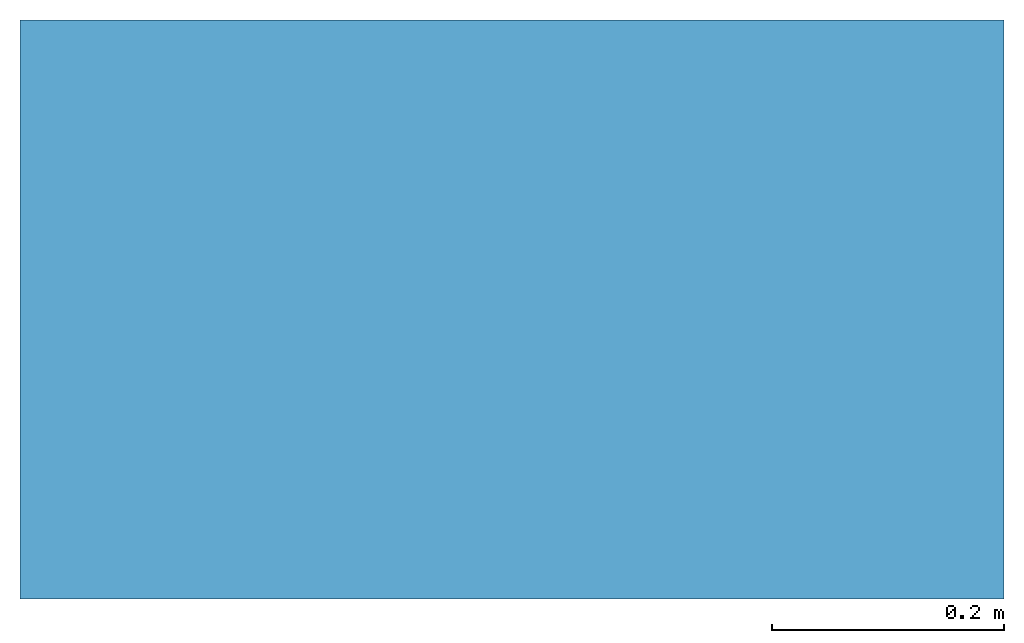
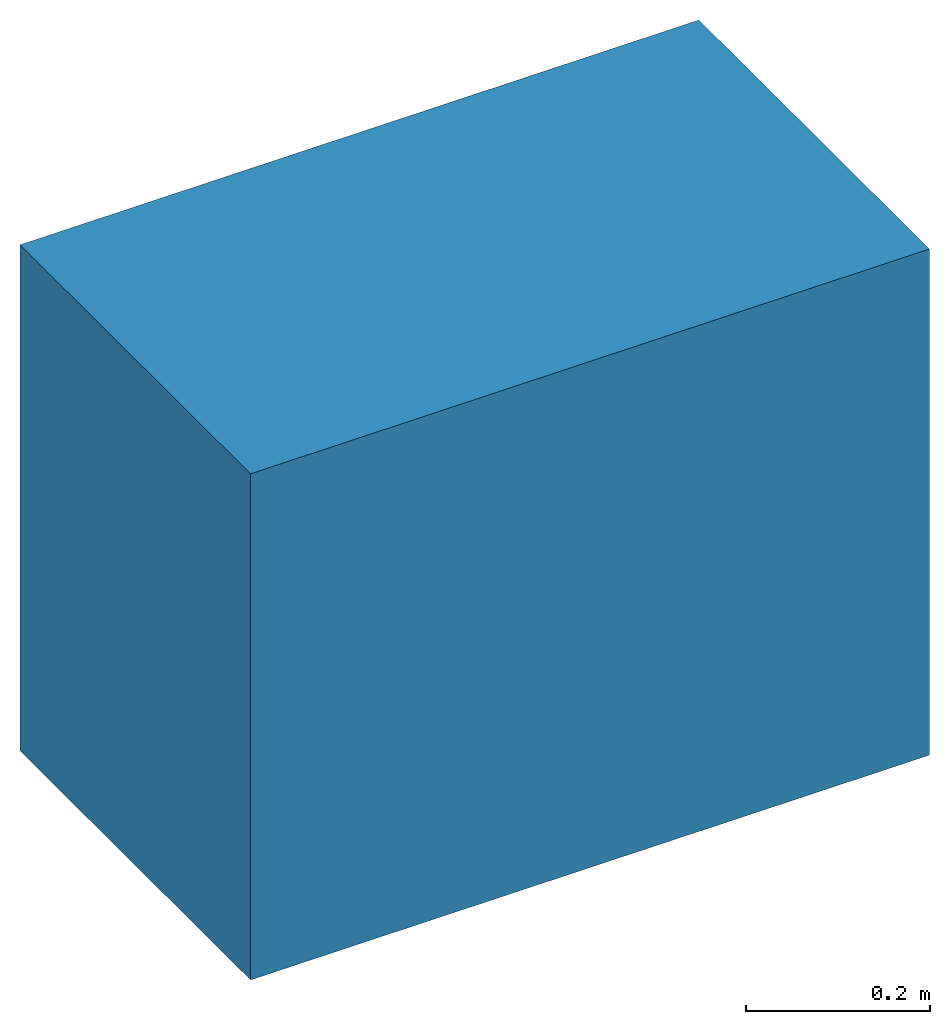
# One storey: 1 slab.
"""IFC4 building model written with IfcOpenShell, lengths in metres."""

import ifcopenshell
import ifcopenshell.guid

model = None  # the IFC model being written
_history = None  # IfcOwnerHistory: only IFC2X3 demands one
_inside = {}  # id of a spatial element -> (the spatial element, [elements in it])
_under = {}  # id of a project, library or spatial element -> (it, [spatial elements below it])
_declared = {}  # id of a project -> (the project, [libraries it declares])
_typed = {}  # id of a type object -> (the type object, [elements of that type])
_made_of = {}  # id of a material, layer set ... -> (it, [elements and type objects made of it])


def new_model(schema):
    """Start an empty IFC model of exactly this schema.

    Asked for "IFC4X3", IfcOpenShell would pick the latest addendum, in which some entities
    have other attributes; the version numbers below select the first issue.
    IFC2X3 requires an IfcOwnerHistory on every rooted entity: one is made here for all.
    """
    global model, _history
    if schema == "IFC4X3":
        model = ifcopenshell.file(schema_version=(4, 3, 0, 0))
    else:
        model = ifcopenshell.file(schema=schema)
    _inside.clear()
    _under.clear()
    _declared.clear()
    _typed.clear()
    _made_of.clear()
    _history = None
    if model.schema == "IFC2X3":
        org = make("IfcOrganization", Name="unknown")
        user = make(
            "IfcPersonAndOrganization",
            ThePerson=make("IfcPerson", FamilyName="unknown"),
            TheOrganization=org,
        )
        app = make(
            "IfcApplication",
            ApplicationDeveloper=org,
            Version="unknown",
            ApplicationFullName="unknown",
            ApplicationIdentifier="unknown",
        )
        _history = make(
            "IfcOwnerHistory",
            OwningUser=user,
            OwningApplication=app,
            ChangeAction="ADDED",
            CreationDate=0,
        )
    return model


def make(cls, **values):
    """One entity of the class cls with the attributes given. An attribute that is None is left unset."""
    return model.create_entity(
        cls, **{name: value for name, value in values.items() if value is not None}
    )


def entity(cls, *values):
    """Any entity or typed value of the class cls, its attributes in the order of the schema. None: left unset."""
    e = model.create_entity(cls)
    for i, value in enumerate(values):
        if value is not None:
            e[i] = value
    return e


def rooted(cls, **values):
    """An entity with a GlobalId (a new one), such as an element, a storey or a relation."""
    return make(cls, GlobalId=ifcopenshell.guid.new(), OwnerHistory=_history, **values)


def si_unit(unit_type, name, prefix=None):
    """IfcSIUnit, for example si_unit("LENGTHUNIT", "METRE", prefix="MILLI")."""
    return make("IfcSIUnit", UnitType=unit_type, Prefix=prefix, Name=name)


def converted_unit(unit_type, name, factor, base, dimensions=None, offset=None):
    """IfcConversionBasedUnit, such as the inch: factor (a typed value) times the base unit."""
    return make(
        "IfcConversionBasedUnit"
        if offset is None
        else "IfcConversionBasedUnitWithOffset",
        ConversionOffset=offset,
        Dimensions=None
        if dimensions is None
        else entity("IfcDimensionalExponents", *dimensions),
        UnitType=unit_type,
        Name=name,
        ConversionFactor=make(
            "IfcMeasureWithUnit", ValueComponent=factor, UnitComponent=base
        ),
    )


def assignment(units):
    """IfcUnitAssignment: the units of a project."""
    return None if units is None else make("IfcUnitAssignment", Units=units)


def point(xyz):
    """IfcCartesianPoint."""
    return None if xyz is None else make("IfcCartesianPoint", Coordinates=xyz)


def direction(xyz):
    """IfcDirection."""
    return None if xyz is None else make("IfcDirection", DirectionRatios=xyz)


def frame(location, z_axis=None, x_axis=None):
    """IfcAxis2Placement3D, a coordinate frame: its origin and axes. An axis left out is left unset."""
    return make(
        "IfcAxis2Placement3D",
        Location=point(location),
        Axis=direction(z_axis),
        RefDirection=direction(x_axis),
    )


def frame_2d(location, x_axis=None):
    """IfcAxis2Placement2D, a coordinate frame in the plane: its origin and x axis."""
    return make(
        "IfcAxis2Placement2D", Location=point(location), RefDirection=direction(x_axis)
    )


def origin():
    """The frame at (0, 0, 0) with its axes left unset."""
    return frame((0.0, 0.0, 0.0))


def place(relative_to, where):
    """IfcLocalPlacement: puts the frame where relative to a parent placement (None: the world)."""
    return make(
        "IfcLocalPlacement", PlacementRelTo=relative_to, RelativePlacement=where
    )


def context(
    kind, dimensions, precision=None, world=None, true_north=None, identifier=None
):
    """IfcGeometricRepresentationContext, for example the 3D "Model" context."""
    return make(
        "IfcGeometricRepresentationContext",
        ContextIdentifier=identifier,
        ContextType=kind,
        CoordinateSpaceDimension=dimensions,
        Precision=precision,
        WorldCoordinateSystem=world,
        TrueNorth=true_north,
    )


def subcontext(parent, identifier, kind, view, scale=None):
    """IfcGeometricRepresentationSubContext, for example "Body" below "Model"."""
    return make(
        "IfcGeometricRepresentationSubContext",
        ContextIdentifier=identifier,
        ContextType=kind,
        ParentContext=parent,
        TargetScale=scale,
        TargetView=view,
    )


def project(units=None, contexts=None):
    """IfcProject with its units and contexts."""
    return rooted(
        "IfcProject",
        Name="project",
        RepresentationContexts=contexts,
        UnitsInContext=assignment(units),
    )


def spatial(cls, under=None, at=None, **own):
    """A site, building, storey or space (cls), placed at a placement, below another one or the project."""
    s = rooted(cls, ObjectPlacement=at, **own)
    if under is not None:
        _under.setdefault(under.id(), (under, []))[1].append(s)
    return s


def profile(cls, at=None, kind="AREA", **sizes):
    """A parametric profile (cls). Its sizes go by their IFC names, for example OverallWidth=200.0."""
    return make(cls, ProfileType=kind, Position=at, **sizes)


def rectangle(**sizes):
    """IfcRectangleProfileDef."""
    return profile("IfcRectangleProfileDef", **sizes)


def extrude(swept, where, along, depth):
    """IfcExtrudedAreaSolid: the profile swept, set in the frame where, extruded along a direction by depth."""
    return make(
        "IfcExtrudedAreaSolid",
        SweptArea=swept,
        Position=where,
        ExtrudedDirection=direction(along),
        Depth=depth,
    )


def shape(context_of_items, identifier, shape_type, items):
    """IfcShapeRepresentation: the items that make up one representation, for example the "Body"."""
    return make(
        "IfcShapeRepresentation",
        ContextOfItems=context_of_items,
        RepresentationIdentifier=identifier,
        RepresentationType=shape_type,
        Items=items,
    )


def material(Name=None, Category=None):
    """IfcMaterial."""
    return make("IfcMaterial", Name=Name, Category=Category)


def made_of(thing, what):
    """Note that an element or type object is made of a material, layer set ...; save() writes the relation."""
    if what is not None:
        _made_of.setdefault(what.id(), (what, []))[1].append(thing)
    return thing


def type_object(cls, material=None, **own):
    """A type object (cls), such as IfcWallType, which elements share."""
    return made_of(rooted(cls, **own), material)


def element(
    cls,
    number,
    at=None,
    inside=None,
    cuts=None,
    type_object=None,
    material=None,
    context=None,
    identifier="Body",
    shape_type=None,
    held_by="IfcProductDefinitionShape",
    body=None,
    shapes=None,
    **own,
):
    """One element of the class cls, such as IfcWall. Its Tag is "e" and its number.

    at: its placement. inside: the storey or other place that contains it. cuts: it is an
    opening in that element (IfcRelVoidsElement). A single representation is given by context,
    identifier, shape_type and body (its items); several are given by shapes. held_by: the class
    of the entity that holds the representations. save() writes the other relations.
    """
    e = rooted(cls, Tag="e%d" % number, ObjectPlacement=at, **own)
    if body is not None:
        shapes = [shape(context, identifier, shape_type, body)]
    if shapes is not None:
        e.Representation = make(held_by, Representations=shapes)
    if inside is not None:
        _inside.setdefault(inside.id(), (inside, []))[1].append(e)
    if cuts is not None:
        rooted(
            "IfcRelVoidsElement", RelatingBuildingElement=cuts, RelatedOpeningElement=e
        )
    if type_object is not None:
        _typed.setdefault(type_object.id(), (type_object, []))[1].append(e)
    return made_of(e, material)


def aggregate(whole, parts):
    """IfcRelAggregates: a whole, such as a stair, and the parts it consists of."""
    return rooted("IfcRelAggregates", RelatingObject=whole, RelatedObjects=parts)


def save(model, path):
    """Write the relations noted so far, then the file.

    IfcRelAggregates (storeys below a building ...), IfcRelContainedInSpatialStructure (elements
    in a storey), IfcRelDefinesByType, IfcRelAssociatesMaterial and IfcRelDeclares: one each for
    every whole, place, type object, material and project.
    """
    for whole, parts in _under.values():
        aggregate(whole, parts)
    for where, things in _inside.values():
        rooted(
            "IfcRelContainedInSpatialStructure",
            RelatedElements=things,
            RelatingStructure=where,
        )
    for kind, things in _typed.values():
        rooted("IfcRelDefinesByType", RelatedObjects=things, RelatingType=kind)
    for what, things in _made_of.values():
        rooted("IfcRelAssociatesMaterial", RelatedObjects=things, RelatingMaterial=what)
    for by, libraries in _declared.values():
        rooted("IfcRelDeclares", RelatingContext=by, RelatedDefinitions=libraries)
    model.write(path)


model = new_model("IFC4")

# Units and contexts
model_context = context("Model", 3, precision=1e-05, world=origin(), true_north=direction((6.123031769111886e-17, 1.0)))
body_context = subcontext(model_context, "Body", "Model", "MODEL_VIEW")
ifc_project = project(units=[si_unit("LENGTHUNIT", "METRE"), converted_unit("PLANEANGLEUNIT", "DEGREE", entity("IfcPlaneAngleMeasure", 0.017453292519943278), si_unit("PLANEANGLEUNIT", "RADIAN"), dimensions=[0, 0, 0, 0, 0, 0, 0]), si_unit("AREAUNIT", "SQUARE_METRE")], contexts=[model_context])

# Site, building, storey
site_placement = place(None, origin())
site = spatial("IfcSite", under=ifc_project, at=site_placement, Name="Default", CompositionType="ELEMENT")
building_placement = place(site_placement, origin())
building = spatial("IfcBuilding", under=site, at=building_placement, CompositionType="ELEMENT")
storey_placement = place(building_placement, origin())
storey = spatial("IfcBuildingStorey", under=building, at=storey_placement, Name="DB_Bezugshoehe_max_Bahnsteigkante", CompositionType="ELEMENT", Elevation=0.0)

# Slab
ifc_material = material(Name="DB_Magerbeton", Category="DB_Beton")
slab_type = type_object("IfcSlabType", Name="DB_BSK_76_Fundament_Pass:DB_BSK_76_Fundament_Pass", PredefinedType="BASESLAB", material=ifc_material)
slab_placement = place(storey_placement, origin())
element("IfcSlab", 1, at=slab_placement, inside=storey, type_object=slab_type, Name="DB_BSK_76_Fundament_Pass:DB_BSK_76_Fundament_Pass:6254", ObjectType="DB_BSK_76_Fundament_Pass:DB_BSK_76_Fundament_Pass", PredefinedType="BASESLAB", context=body_context, shape_type="SweptSolid", body=[
    extrude(rectangle(XDim=0.8500000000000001, YDim=0.5000000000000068, at=frame_2d((4.718447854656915e-16, 0.0), x_axis=(1.0, 0.0))), frame((0.31438990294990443, 0.2500000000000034, -1.654999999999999), z_axis=(0.0, 0.0, 1.0), x_axis=(-1.0, 0.0, 0.0)), (0.0, 0.0, 1.0), 0.12000000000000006),
    extrude(rectangle(XDim=0.8499999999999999, YDim=0.5000000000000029, at=frame_2d((4.718447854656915e-16, 0.0), x_axis=(1.0, 0.0))), frame((0.31438990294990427, 0.24999999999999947, -1.534999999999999), z_axis=(0.0, 0.0, 1.0), x_axis=(-1.0, 0.0, 0.0)), (0.0, 0.0, 1.0), 0.55),
])

save(model, "model.ifc")
